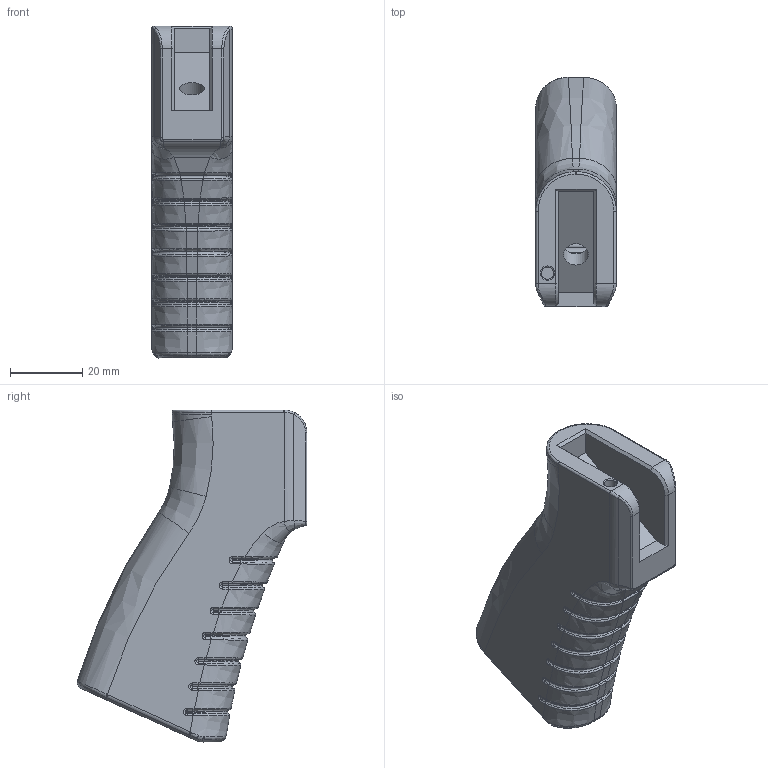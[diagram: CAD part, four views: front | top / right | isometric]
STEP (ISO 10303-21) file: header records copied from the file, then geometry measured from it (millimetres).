
FILE_DESCRIPTION(/* description */ (''),/* implementation_level */ '2;1');
FILE_NAME(/* name */ 'C:/Users/FFFTechnology/3D Objects/The Bad Stuff/To Be Released/AWCY Laffs Grip Pack/STP/Grip 3.step',/* time_stamp */ '2021-10-28T08:42:53-04:00',/* author */ (''),/* organization */ (''),/* preprocessor_version */ 'ST-DEVELOPER v18.1',/* originating_system */ 'Autodesk Translation Framework v10.10.0.1391',/* authorisation */ '');
FILE_SCHEMA (('AUTOMOTIVE_DESIGN { 1 0 10303 214 3 1 1 }'));
Products named in the file (1): Grip 3
Bounding box: 22.33 x 63.64 x 91.97 mm (x, y, z)
Volume: 39476.7 mm3; surface area: 18086.6 mm2
Topology: 1 solids, 1 shells, 942 faces, 2389 edges, 1439 vertices
Faces by surface type: bspline 583, cylinder 186, plane 85, torus 81, cone 7
Full cylindrical faces by diameter (mm): 3.4 x1, 6.8 x1, 11.616 x1, 13.416 x1
Entity records: 45573 total; most frequent: CARTESIAN_POINT 26366, ORIENTED_EDGE 4730, DIRECTION 2789, EDGE_CURVE 2365, VERTEX_POINT 1439, AXIS2_PLACEMENT_3D 1058, B_SPLINE_CURVE_WITH_KNOTS 994, EDGE_LOOP 958
